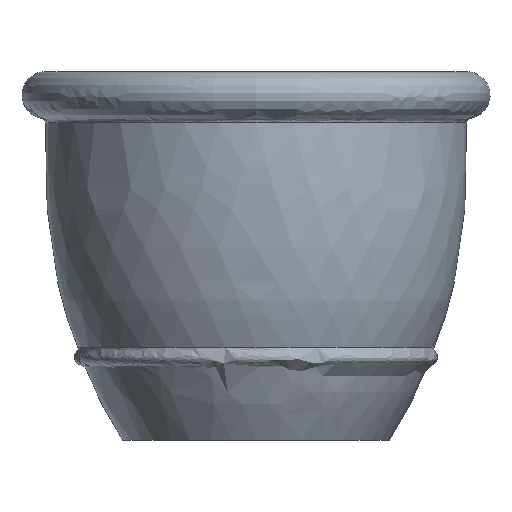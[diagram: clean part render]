
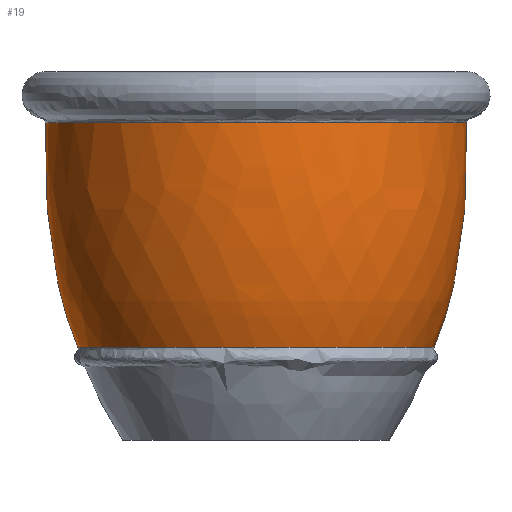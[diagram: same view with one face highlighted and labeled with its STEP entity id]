
A CAD part, front view. The second image highlights one B-rep face of the part: STEP entity #19.
In plain terms, the highlighted free-form (B-spline) face has degree [2, 2] with [3, 5] control points.
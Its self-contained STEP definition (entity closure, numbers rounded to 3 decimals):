
#19=ADVANCED_FACE('',(#38),#282,.T.);
#38=FACE_OUTER_BOUND('',#57,.T.);
#57=EDGE_LOOP('',(#85,#86,#87,#88));
#85=ORIENTED_EDGE('',*,*,#158,.F.);
#86=ORIENTED_EDGE('',*,*,#157,.T.);
#87=ORIENTED_EDGE('',*,*,#159,.T.);
#88=ORIENTED_EDGE('',*,*,#178,.F.);
#157=EDGE_CURVE('',#256,#255,#193,.T.);
#158=EDGE_CURVE('',#256,#267,#207,.T.);
#159=EDGE_CURVE('',#255,#264,#208,.T.);
#178=EDGE_CURVE('',#267,#264,#200,.T.);
#193=(
BOUNDED_CURVE()
B_SPLINE_CURVE(2,(#1141,#1142,#1143),.UNSPECIFIED.,.F.,.F.)
B_SPLINE_CURVE_WITH_KNOTS((3,3),(255.833,652.55),
 .UNSPECIFIED.)
CURVE()
GEOMETRIC_REPRESENTATION_ITEM()
RATIONAL_B_SPLINE_CURVE((1.,1.,1.))
REPRESENTATION_ITEM('')
);
#200=(
BOUNDED_CURVE()
B_SPLINE_CURVE(2,(#1244,#1245,#1246),.UNSPECIFIED.,.F.,.F.)
B_SPLINE_CURVE_WITH_KNOTS((3,3),(255.833,652.55),
 .UNSPECIFIED.)
CURVE()
GEOMETRIC_REPRESENTATION_ITEM()
RATIONAL_B_SPLINE_CURVE((1.,1.,1.))
REPRESENTATION_ITEM('')
);
#207=TRIMMED_CURVE($,#231,(#1145),(#1146),.T.,.CARTESIAN.);
#208=TRIMMED_CURVE($,#232,(#1148),(#1149),.T.,.CARTESIAN.);
#231=CIRCLE('',#389,359.98);
#232=CIRCLE('',#390,304.357);
#255=VERTEX_POINT('',#1097);
#256=VERTEX_POINT('',#1098);
#264=VERTEX_POINT('',#1106);
#267=VERTEX_POINT('',#1109);
#282=(
BOUNDED_SURFACE()
B_SPLINE_SURFACE(2,2,((#560,#561,#562,#563,#564),(#565,#566,#567,#568,#569),
(#570,#571,#572,#573,#574)),.UNSPECIFIED.,.F.,.F.,.F.)
B_SPLINE_SURFACE_WITH_KNOTS((3,3),(3,2,3),(255.833,652.55),
(0.,628.053,1256.106),.UNSPECIFIED.)
GEOMETRIC_REPRESENTATION_ITEM()
RATIONAL_B_SPLINE_SURFACE(((1.,0.707,1.,0.707,1.),
(1.,0.707,1.,0.707,1.),(1.,0.707,1.,
0.707,1.)))
REPRESENTATION_ITEM('')
SURFACE()
);
#389=AXIS2_PLACEMENT_3D($,#1144,#423,#424);
#390=AXIS2_PLACEMENT_3D($,#1147,#425,#426);
#423=DIRECTION('',(0.,0.,1.));
#424=DIRECTION('',(-1.,0.,0.));
#425=DIRECTION('',(0.,0.,1.));
#426=DIRECTION('',(-1.,0.,0.));
#560=CARTESIAN_POINT('',(-359.98,-1664.,360.232));
#561=CARTESIAN_POINT('',(-359.98,-2023.98,360.232));
#562=CARTESIAN_POINT('',(0.,-2023.98,360.232));
#563=CARTESIAN_POINT('',(359.98,-2023.98,360.232));
#564=CARTESIAN_POINT('',(359.98,-1664.,360.232));
#565=CARTESIAN_POINT('',(-366.876,-1664.,123.733));
#566=CARTESIAN_POINT('',(-366.876,-2030.876,123.733));
#567=CARTESIAN_POINT('',(0.,-2030.876,123.733));
#568=CARTESIAN_POINT('',(366.876,-2030.876,123.733));
#569=CARTESIAN_POINT('',(366.876,-1664.,123.733));
#570=CARTESIAN_POINT('',(-304.357,-1664.,-23.444));
#571=CARTESIAN_POINT('',(-304.357,-1968.357,-23.444));
#572=CARTESIAN_POINT('',(0.,-1968.357,-23.444));
#573=CARTESIAN_POINT('',(304.357,-1968.357,-23.444));
#574=CARTESIAN_POINT('',(304.357,-1664.,-23.444));
#1097=CARTESIAN_POINT('',(-304.357,-1664.,-23.444));
#1098=CARTESIAN_POINT('',(-359.98,-1664.,360.232));
#1106=CARTESIAN_POINT('',(304.357,-1664.,-23.444));
#1109=CARTESIAN_POINT('',(359.98,-1664.,360.232));
#1141=CARTESIAN_POINT('',(-359.98,-1664.,360.232));
#1142=CARTESIAN_POINT('',(-366.876,-1664.,123.733));
#1143=CARTESIAN_POINT('',(-304.357,-1664.,-23.444));
#1144=CARTESIAN_POINT('',(0.,-1664.,360.232));
#1145=CARTESIAN_POINT('',(-359.98,-1664.,360.232));
#1146=CARTESIAN_POINT('',(359.98,-1664.,360.232));
#1147=CARTESIAN_POINT('',(0.,-1664.,-23.444));
#1148=CARTESIAN_POINT('',(-304.357,-1664.,-23.444));
#1149=CARTESIAN_POINT('',(304.357,-1664.,-23.444));
#1244=CARTESIAN_POINT('',(359.98,-1664.,360.232));
#1245=CARTESIAN_POINT('',(366.876,-1664.,123.733));
#1246=CARTESIAN_POINT('',(304.357,-1664.,-23.444));
